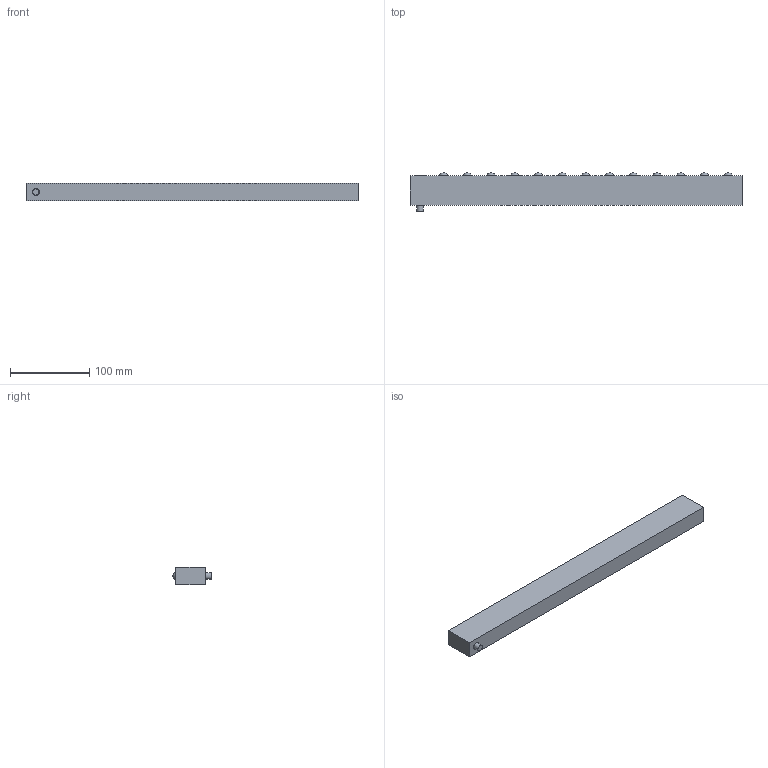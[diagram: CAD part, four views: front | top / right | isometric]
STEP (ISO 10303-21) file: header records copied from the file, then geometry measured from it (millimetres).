
FILE_DESCRIPTION(/* description */ (''),/* implementation_level */ '2;1');
FILE_NAME(/* name */ 'V:\Shrinkwrap\EMB\EMB - SHRINKWRAP\EMB22\EMB22-13_Shrinkwrap_1.stp',/* time_stamp */ '2022-08-12T10:44:09+02:00',/* author */ ('cw'),/* organization */ (''),/* preprocessor_version */ 'ST-DEVELOPER v17',/* originating_system */ 'Autodesk Inventor 2019',/* authorisation */ '');
FILE_SCHEMA (('AUTOMOTIVE_DESIGN { 1 0 10303 214 3 1 1 }','INTEGRATED_CNC_SCHEMA'));
Length unit declared in the file: millimetre
Products named in the file (1): EMB22-13_Shrinkwrap_1
Bounding box: 420 x 48.46 x 21.8 mm (x, y, z)
Volume: 345922 mm3; surface area: 54503.6 mm2
Topology: 1 solids, 1 shells, 27 faces, 41 edges, 35 vertices
Faces by surface type: sphere 13, plane 10, cylinder 4
Full cylindrical faces by diameter (mm): 8 x1, 9 x1, 13 x1, 14 x1
Entity records: 721 total; most frequent: DIRECTION 118, CARTESIAN_POINT 102, ORIENTED_EDGE 78, AXIS2_PLACEMENT_3D 51, EDGE_LOOP 44, EDGE_CURVE 39, VERTEX_POINT 31, STYLED_ITEM 30
